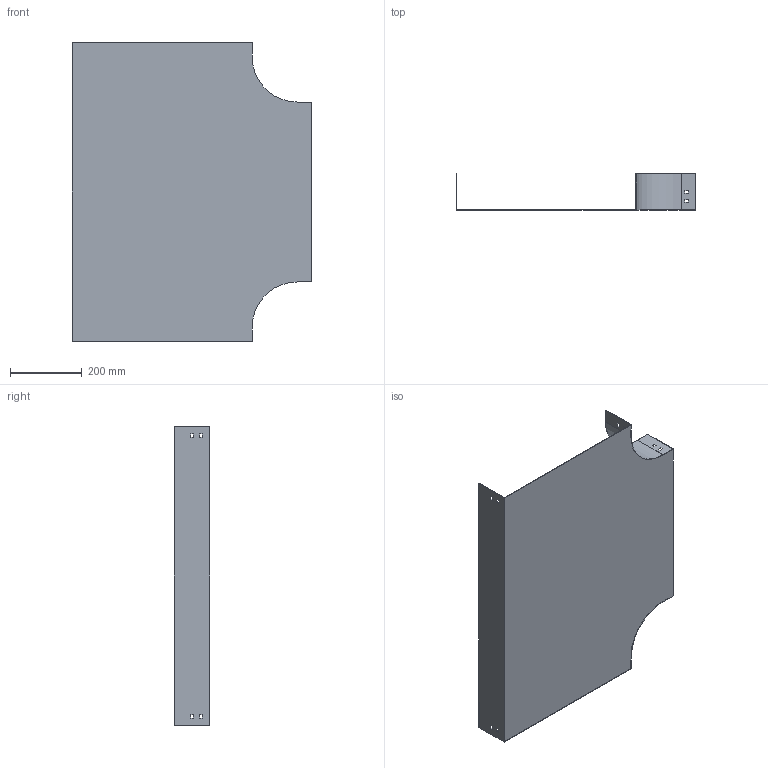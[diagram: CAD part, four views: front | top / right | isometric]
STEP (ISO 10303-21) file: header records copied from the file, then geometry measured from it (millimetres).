
FILE_DESCRIPTION (( 'STEP AP214' ), '1' );
FILE_NAME ('PT_501.step', '2025-07-16T09:24:11', ( '' ), ( '' ), 'SwSTEP 2.0', 'SolidWorks 2023', '' );
FILE_SCHEMA (( 'AUTOMOTIVE_DESIGN' ));
Length unit declared in the file: millimetre
Products named in the file (1): PT_501
Bounding box: 665 x 100 x 830 mm (x, y, z)
Volume: 959691.4 mm3; surface area: 1285411.1 mm2
Topology: 1 solids, 1 shells, 70 faces, 204 edges, 136 vertices
Faces by surface type: plane 66, cylinder 4
Entity records: 2347 total; most frequent: CARTESIAN_POINT 411, ORIENTED_EDGE 408, DIRECTION 354, EDGE_CURVE 204, VECTOR 196, LINE 196, VERTEX_POINT 136, EDGE_LOOP 94
